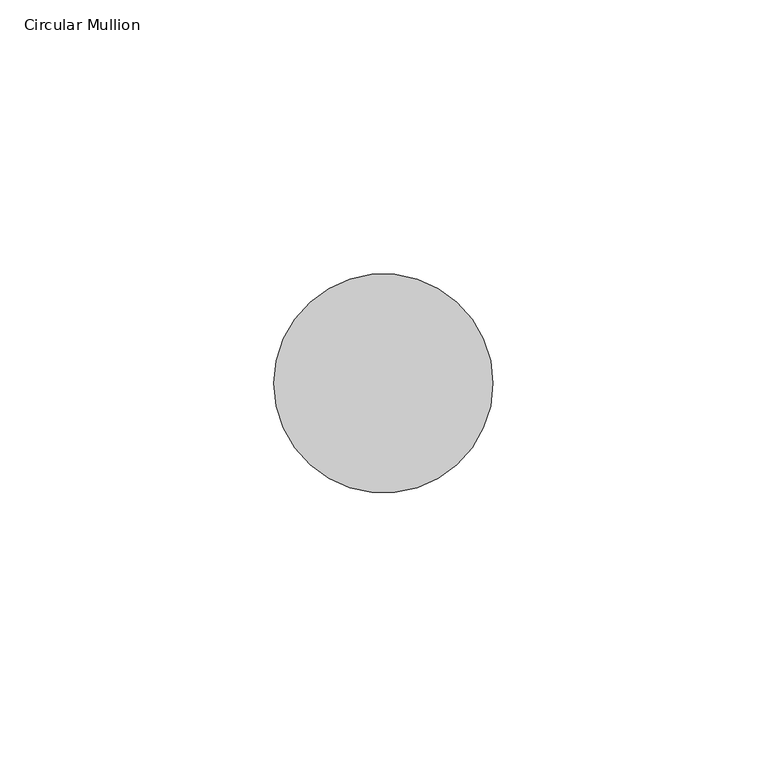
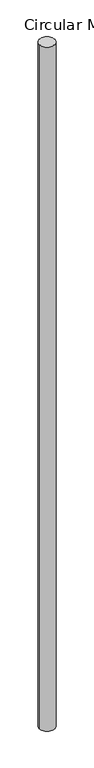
"""IFC4 building model written with IfcOpenShell, lengths in millimetres: member geometry, Circular Mullion : GRADIL 40mm."""

from ifc_helpers import new_model, si_unit, point, frame, origin, origin_2d, place, context, project, spatial, circle_curve, trimmed, segment, composite_curve, outline, extrude, source, transform, mapped, element, save


def circular_mullion_6065364c(model_context):
    return source(origin(), model_context, "Body", "SweptSolid", [
        extrude(outline(composite_curve([segment(trimmed(circle_curve(origin_2d(), 20.0), [point((20.0, 0.0))], [point((-20.0, 0.0))], False, "CARTESIAN"), True, "CONTINUOUS"), segment(trimmed(circle_curve(origin_2d(), 20.0), [point((-20.0, 0.0))], [point((20.0, 0.0))], False, "CARTESIAN"), True, "CONTINUOUS")], self_intersect=False)), frame((0.0, 0.0, -1849.3958802), z_axis=(0.0, 0.0, 1.0), x_axis=(1.0, 0.0, 0.0)), (0.0, 0.0, 1.0), 1849.3958802),
    ])


if __name__ == "__main__":
    model = new_model("IFC4")
    model_context = context("Model", 3, world=origin())
    ifc_project = project(units=[si_unit("LENGTHUNIT", "METRE", prefix="MILLI")], contexts=[model_context])
    site = spatial("IfcSite", under=ifc_project)
    building = spatial("IfcBuilding", under=site)
    placement = place(None, origin())
    circular_mullion_shape = circular_mullion_6065364c(model_context)
    element("IfcMember", 1, ObjectType="Circular Mullion : GRADIL 40mm", at=placement, inside=building, context=model_context, shape_type="MappedRepresentation", body=[
        mapped(circular_mullion_shape, transform((0.0, 0.0, 0.0), x_axis=(1.0, 0.0, 0.0), y_axis=(0.0, 1.0, 0.0), z_axis=(0.0, 0.0, 1.0))),
    ])
    save(model, "model.ifc")
